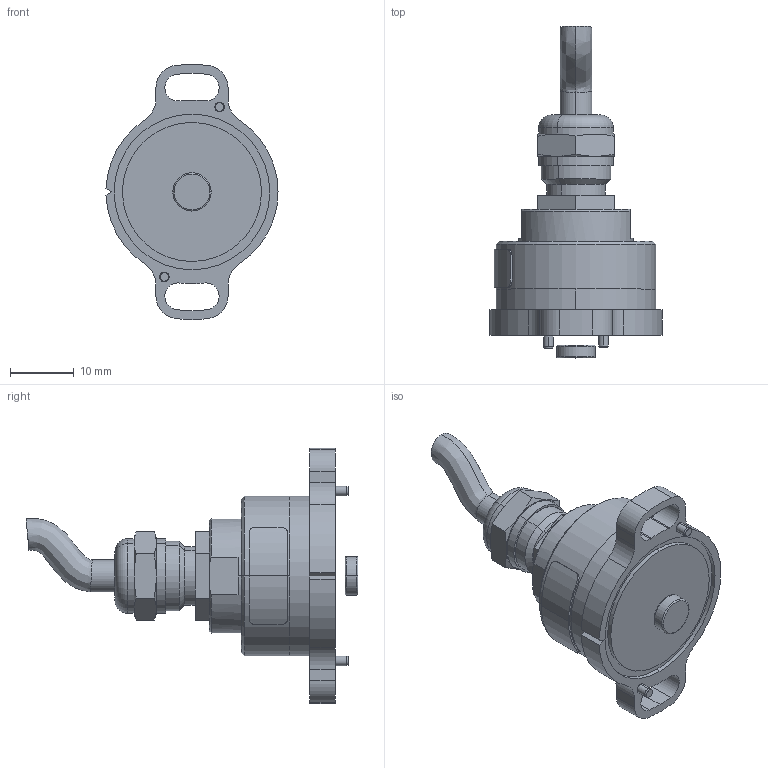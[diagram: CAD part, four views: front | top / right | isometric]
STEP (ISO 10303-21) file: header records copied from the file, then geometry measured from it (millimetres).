
FILE_DESCRIPTION (( 'STEP AP203' ), '1' );
FILE_NAME ('HTx Kit PG P.STEP', '2022-07-29T10:28:12', ( '' ), ( '' ), 'SwSTEP 2.0', 'SolidWorks 2022', '' );
FILE_SCHEMA (( 'CONFIG_CONTROL_DESIGN' ));
Length unit declared in the file: millimetre
Products named in the file (1): HTx Kit PG P
Bounding box: 26.99 x 52.03 x 39.98 mm (x, y, z)
Surface area: 5054.3 mm2 (no closed solid volume)
Topology: 0 solids, 8 shells, 138 faces, 337 edges, 216 vertices
Faces by surface type: cylinder 64, plane 42, cone 24, torus 6, bspline 2
Entity records: 4621 total; most frequent: CARTESIAN_POINT 1246, DIRECTION 733, ORIENTED_EDGE 644, EDGE_CURVE 337, AXIS2_PLACEMENT_3D 301, VERTEX_POINT 216, CIRCLE 164, EDGE_LOOP 157
